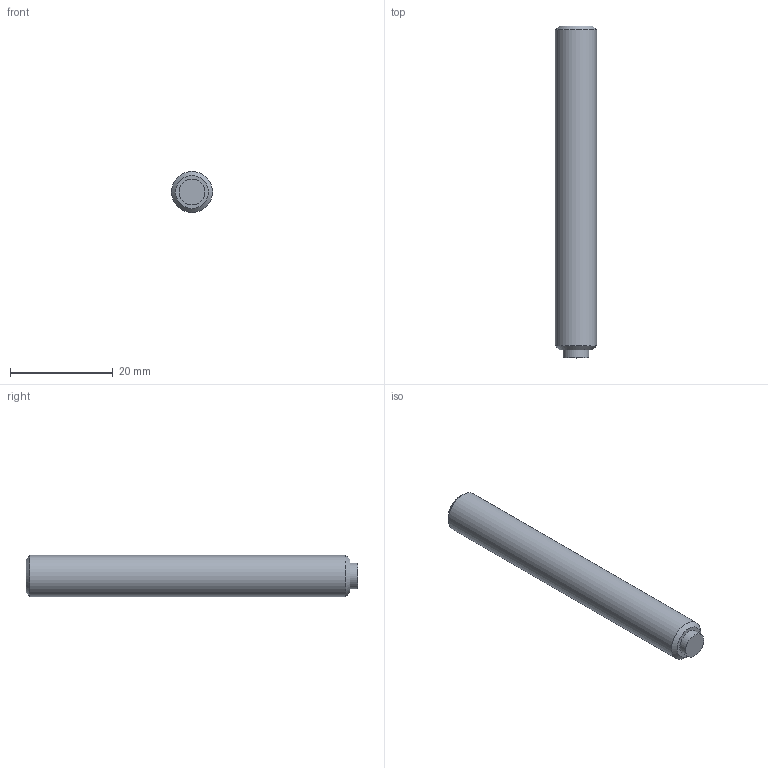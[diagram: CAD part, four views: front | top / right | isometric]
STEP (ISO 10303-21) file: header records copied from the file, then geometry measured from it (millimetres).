
FILE_DESCRIPTION( ( 'STEP AP203' ), '1' );
FILE_NAME( 'C:/Temp/Ganter_Step_05_03_2020/data/3_2/gn913_3/Grub screw GN 913.3-M8-63-KU.stp', '2020-03-13T05:35:39', ( 'License CC BY-ND 4.0' ), ( 'CADENAS' ), ' ', 'PARTsolutions', ' ' );
FILE_SCHEMA( ( 'CONFIG_CONTROL_DESIGN' ) );
Length unit declared in the file: millimetre
Products named in the file (1): _Grub screw GN 913.3-M8-63-KU
Bounding box: 8 x 64.6 x 8 mm (x, y, z)
Volume: 3115 mm3; surface area: 1754.2 mm2
Topology: 1 solids, 1 shells, 14 faces, 28 edges, 18 vertices
Faces by surface type: plane 10, cylinder 2, cone 2
Full cylindrical faces by diameter (mm): 5 x1, 8 x1
Entity records: 386 total; most frequent: DIRECTION 60, CARTESIAN_POINT 57, ORIENTED_EDGE 48, EDGE_CURVE 24, AXIS2_PLACEMENT_3D 21, EDGE_LOOP 20, VERTEX_POINT 18, LINE 18
